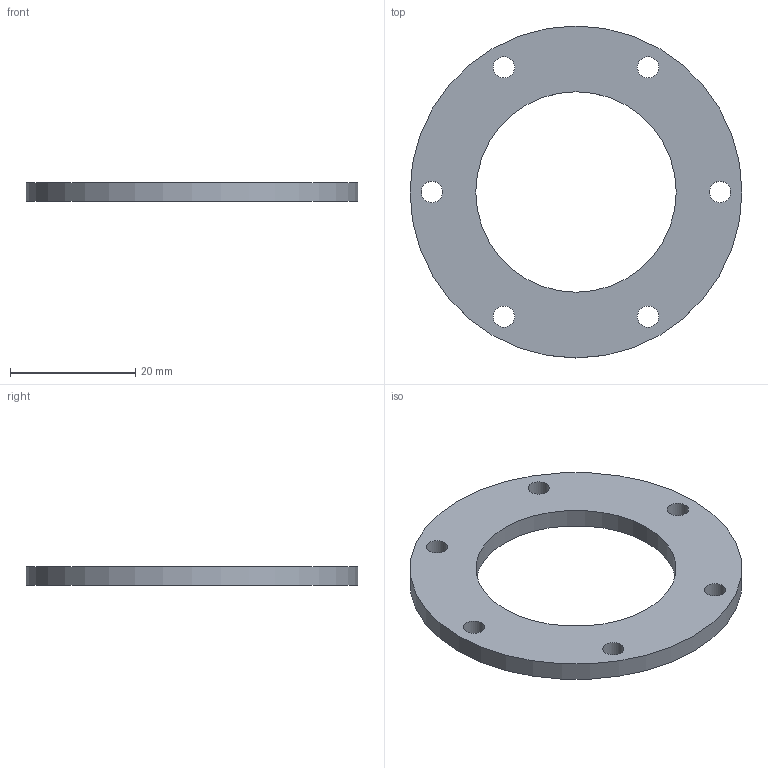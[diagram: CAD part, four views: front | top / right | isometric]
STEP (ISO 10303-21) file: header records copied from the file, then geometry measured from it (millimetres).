
FILE_DESCRIPTION(('Open CASCADE Model'),'2;1');
FILE_NAME('Open CASCADE Shape Model','2026-09-23T04:48:11',('Author'),( 'Open CASCADE'),'Open CASCADE STEP processor 7.9','Open CASCADE 7.9' ,'Unknown');
FILE_SCHEMA(('AUTOMOTIVE_DESIGN { 1 0 10303 214 1 1 1 1 }'));
Length unit declared in the file: millimetre
Products named in the file (1): Open CASCADE STEP translator 7.9 3
Bounding box: 53 x 53 x 3 mm (x, y, z)
Volume: 4042.4 mm3; surface area: 3688.3 mm2
Topology: 1 solids, 1 shells, 10 faces, 24 edges, 16 vertices
Faces by surface type: cylinder 8, plane 2
Full cylindrical faces by diameter (mm): 3.4 x6, 32 x1, 53 x1
Entity records: 690 total; most frequent: CARTESIAN_POINT 171, DIRECTION 98, ORIENTED_EDGE 48, PCURVE 48, DEFINITIONAL_REPRESENTATION 48, LINE 40, VECTOR 40, AXIS2_PLACEMENT_3D 27
